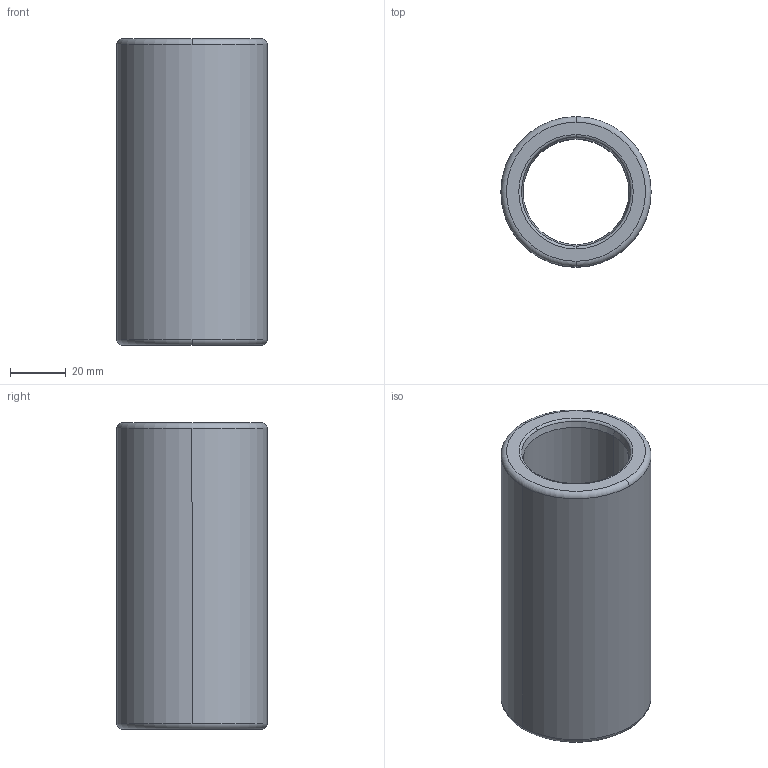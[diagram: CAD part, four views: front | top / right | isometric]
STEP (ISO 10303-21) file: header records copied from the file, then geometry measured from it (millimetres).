
FILE_DESCRIPTION((''),'2;1');
FILE_NAME('B30_030_110.stp','2009-01-12T10:25:44',(''),(''),'Mechanical Desktop 2009','Mechanical Desktop 2009',', , ');
FILE_SCHEMA(('CONFIG_CONTROL_DESIGN'));
Length unit declared in the file: millimetre
Products named in the file (2): Product; blmdl1
Assembly tree (1 placements, depth 2):
  Product
    blmdl1
Bounding box: 53.99 x 53.99 x 110 mm (x, y, z)
Volume: 126664.3 mm3; surface area: 33583.4 mm2
Topology: 1 solids, 1 shells, 18 faces, 48 edges, 32 vertices
Faces by surface type: torus 8, cylinder 4, cone 4, plane 2
Entity records: 705 total; most frequent: DIRECTION 128, CARTESIAN_POINT 100, ORIENTED_EDGE 96, AXIS2_PLACEMENT_3D 60, EDGE_CURVE 48, CIRCLE 40, VERTEX_POINT 32, EDGE_LOOP 20
